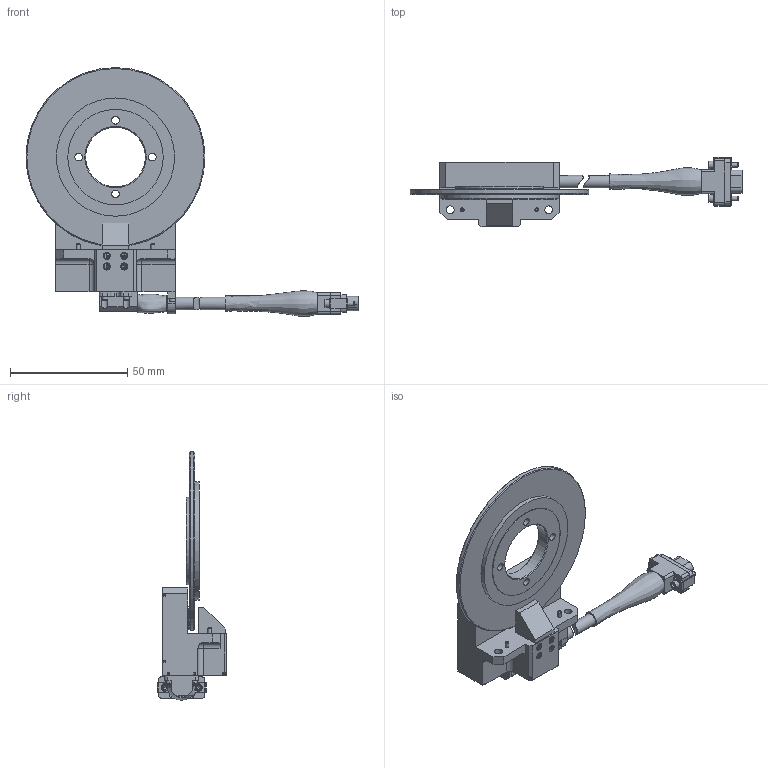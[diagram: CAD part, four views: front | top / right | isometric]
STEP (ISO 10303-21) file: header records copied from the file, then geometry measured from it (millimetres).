
FILE_DESCRIPTION (( 'STEP AP214' ), '1' );
FILE_NAME ('190-0324-02 Encoder Outline, 3 inch.STEP', '2021-02-24T18:40:21', ( '' ), ( '' ), 'SwSTEP 2.0', 'SolidWorks 2019', '' );
FILE_SCHEMA (( 'AUTOMOTIVE_DESIGN' ));
Length unit declared in the file: inch
Products named in the file (3): TRACKER Readhead Assy, Left Exit; 190-0324-02 Encoder Outline, 3 inch; Disk Hub Assy, 3 inch
Assembly tree (2 placements, depth 2):
  190-0324-02 Encoder Outline, 3 inch
    Disk Hub Assy, 3 inch
    TRACKER Readhead Assy, Left Exit
Bounding box: 141.37 x 29.66 x 105.92 mm (x, y, z)
Volume: 49969.1 mm3; surface area: 22848.9 mm2
Topology: 3 solids, 21 shells, 1801 faces, 4490 edges, 2877 vertices
Faces by surface type: plane 1107, cylinder 278, bspline 209, cone 197, torus 8, sphere 2
Full cylindrical faces by diameter (mm): 0.564 x9, 0.813 x9, 1.3 x2, 1.513 x1, 1.524 x68, 1.58 x2, 1.587 x2, 1.59 x2, 1.778 x14, 1.93 x4, 2.08 x2, 2.1 x4, 2.3 x2, 2.339 x1, 2.36 x2, 2.388 x2, 2.438 x18, 3.18 x2, 3.251 x2, 3.264 x4, 5.309 x3, 25.4 x1, 37.338 x1, 38.862 x1, 40.64 x1, 50.343 x1, 76.2 x1
Entity records: 95914 total; most frequent: CARTESIAN_POINT 32688, ORIENTED_EDGE 7968, DIRECTION 7515, EDGE_CURVE 3984, VECTOR 2757, LINE 2757, VERTEX_POINT 2748, EDGE_LOOP 2384
